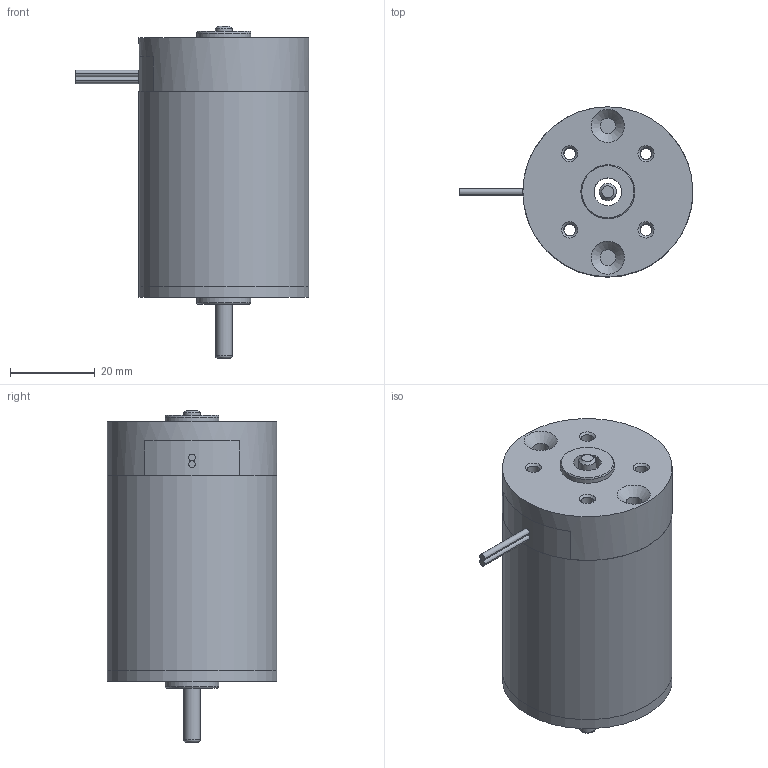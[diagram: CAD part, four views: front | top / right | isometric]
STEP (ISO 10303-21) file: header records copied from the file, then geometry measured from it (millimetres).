
FILE_DESCRIPTION(/* description */ (''),/* implementation_level */ '2;1');
FILE_NAME(/* name */ 'Z:\새 폴더\Compact Type RM4_3D\RM44ㅁBL.stp',/* time_stamp */ '2022-04-05T16:16:12+09:00',/* author */ ('umbro'),/* organization */ (''),/* preprocessor_version */ 'ST-DEVELOPER v17',/* originating_system */ 'Autodesk Inventor 2019',/* authorisation */ '');
FILE_SCHEMA (('AUTOMOTIVE_DESIGN { 1 0 10303 214 3 1 1 }'));
Length unit declared in the file: millimetre
Products named in the file (7): RM44ㅁBL; RM4TYPE_FRONT_HOUSING_; RM44TYPE_SHAFT; RM4TYPE_PIPE_HOUSING_pi40XL45.9; REAR_HOUSING__ASS'Y_LEAD; RM4TYPE_BRUSH_BRAKET_LEAD; RM4TYPE_REAR_HOUSING
Assembly tree (5 placements, depth 2):
  RM44ㅁBL
    RM4TYPE_FRONT_HOUSING_
    RM44TYPE_SHAFT
    RM4TYPE_PIPE_HOUSING_pi40XL45.9
  REAR_HOUSING__ASS'Y_LEAD
    RM4TYPE_BRUSH_BRAKET_LEAD
    RM4TYPE_REAR_HOUSING
Bounding box: 55 x 40 x 78.14 mm (x, y, z)
Volume: 21838.8 mm3; surface area: 21202 mm2
Topology: 7 solids, 7 shells, 70 faces, 151 edges, 98 vertices
Faces by surface type: plane 29, cylinder 26, cone 12, torus 3
Full cylindrical faces by diameter (mm): 2.7 x4, 2.8 x4, 3.7 x2, 3.969 x1, 4 x1, 6.5 x1, 6.65 x1, 12.7 x2, 36.5 x1, 40 x3
Entity records: 2274 total; most frequent: DIRECTION 400, CARTESIAN_POINT 332, ORIENTED_EDGE 302, AXIS2_PLACEMENT_3D 166, EDGE_CURVE 151, EDGE_LOOP 99, VERTEX_POINT 98, CIRCLE 83
